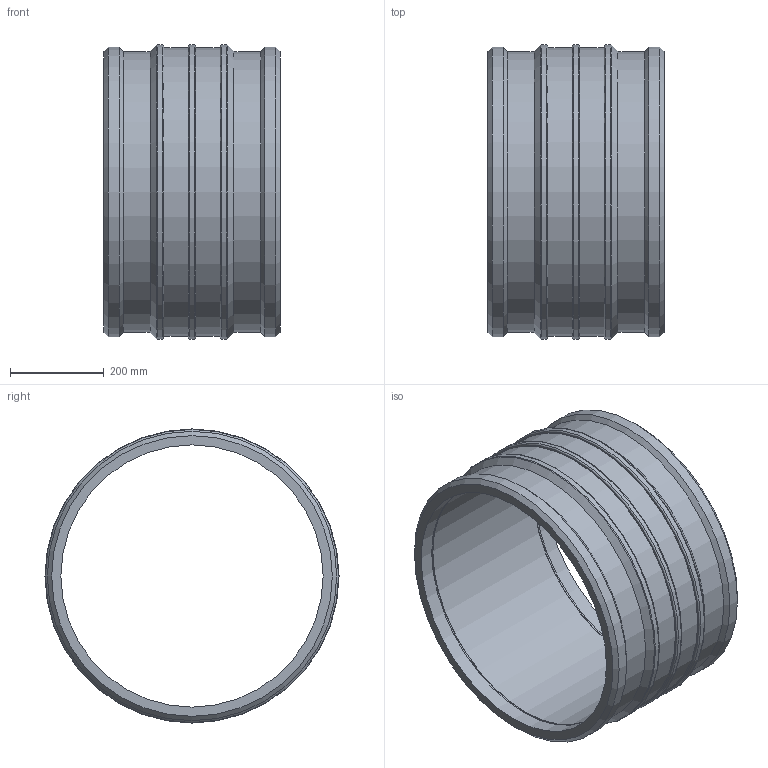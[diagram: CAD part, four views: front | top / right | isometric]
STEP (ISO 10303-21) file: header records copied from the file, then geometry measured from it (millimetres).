
FILE_DESCRIPTION(/* description */ ('PLASSON LIGHTFIT COUPLER 560N'),/* implementation_level */ '2;1');
FILE_NAME(/* name */ 'C:\Dropbox\KIMPROJECTS-Inventor\99-16-3568-Processing\ElectroFusion Fittings\24.01.19\460103\460103560N.ipt.stp',/* time_stamp */ '2019-01-24T12:31:59+02:00',/* author */ ('KIM'),/* organization */ (''),/* preprocessor_version */ 'ST-DEVELOPER v15.6',/* originating_system */ 'Autodesk Inventor 2015',/* authorisation */ '');
FILE_SCHEMA (('AUTOMOTIVE_DESIGN { 1 0 10303 214 3 1 1 }'));
Length unit declared in the file: millimetre
Products named in the file (1): 460103560N
Bounding box: 376 x 628 x 628 mm (x, y, z)
Volume: 17859547.3 mm3; surface area: 1549952.8 mm2
Topology: 1 solids, 1 shells, 48 faces, 86 edges, 50 vertices
Faces by surface type: cylinder 20, plane 14, cone 8, torus 6
Full cylindrical faces by diameter (mm): 4 x2, 10 x2, 560 x3, 599.46 x2, 615.44 x2, 618 x2, 628 x3
Entity records: 1054 total; most frequent: CARTESIAN_POINT 215, DIRECTION 190, ORIENTED_EDGE 100, AXIS2_PLACEMENT_3D 95, EDGE_LOOP 92, EDGE_CURVE 50, FACE_OUTER_BOUND 48, ADVANCED_FACE 48
